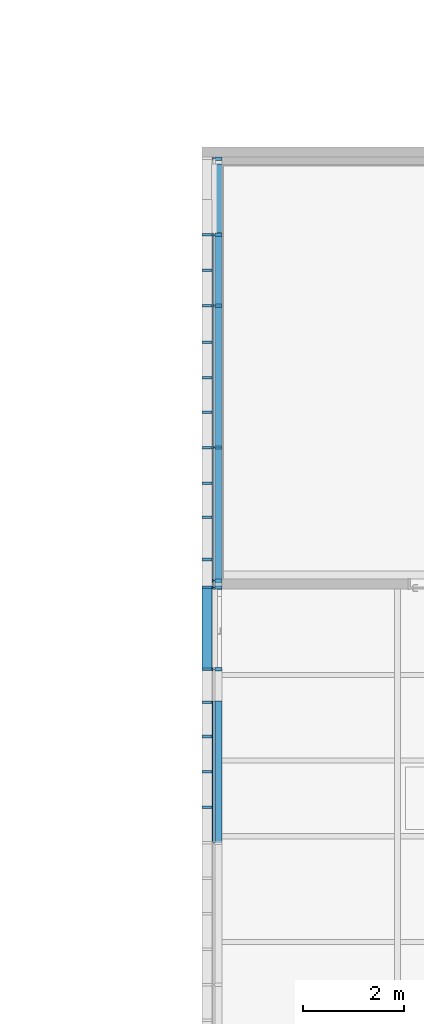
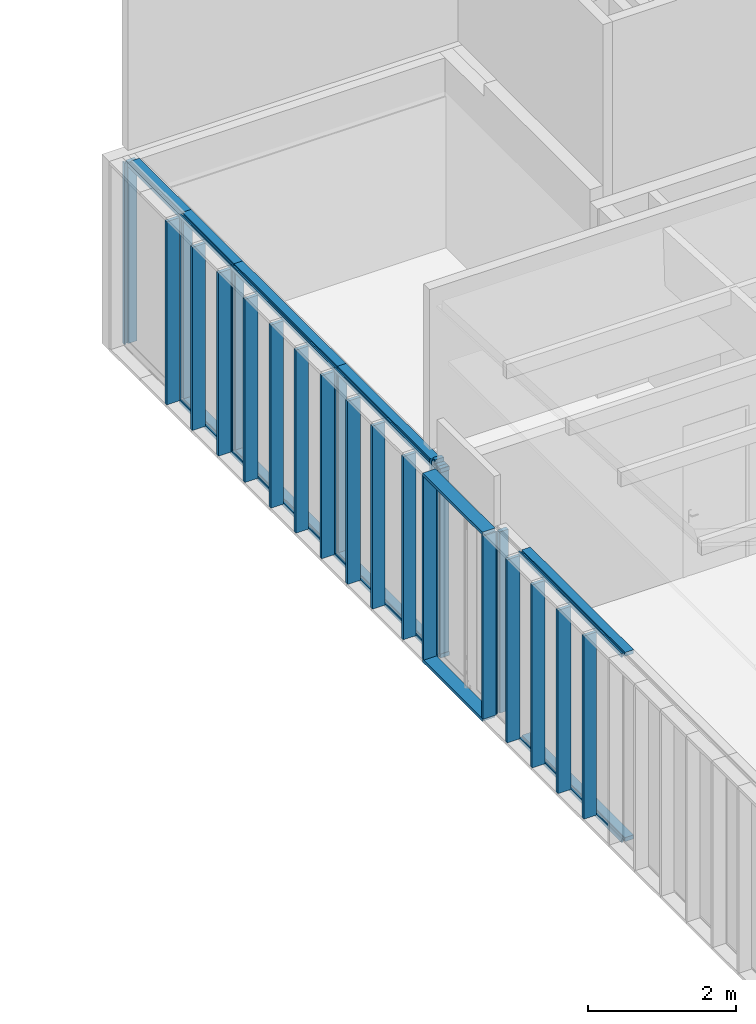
# One storey, part 6 of 240: 34 members, 4 elements without a shape of their own.
"""IFC2X3 building model written with IfcOpenShell, lengths in centimetres."""

from ifc_helpers import new_model, entity, si_unit, converted_unit, derived_unit, direction, frame, origin, origin_2d_with_axis, place, context, subcontext, project, spatial, polyline, rectangle, outline, extrude, source, transform, mapped, material, type_object, type_shapes, element, aggregate, save


model = new_model("IFC2X3")

# Units and contexts
model_context = context("Model", 3, precision=0.001, world=origin(), true_north=direction((6.12303176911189e-17, 1.0)))
body_context = subcontext(model_context, "Body", "Model", "MODEL_VIEW")
ifc_project = project(units=[si_unit("LENGTHUNIT", "METRE", prefix="CENTI"), si_unit("AREAUNIT", "SQUARE_METRE"), si_unit("VOLUMEUNIT", "CUBIC_METRE"), converted_unit("PLANEANGLEUNIT", "DEGREE", entity("IfcRatioMeasure", 0.0174532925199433), si_unit("PLANEANGLEUNIT", "RADIAN"), dimensions=[0, 0, 0, 0, 0, 0, 0]), si_unit("MASSUNIT", "GRAM", prefix="KILO"), derived_unit("MASSDENSITYUNIT", [(si_unit("MASSUNIT", "GRAM", prefix="KILO"), 1), (si_unit("LENGTHUNIT", "METRE"), -3)]), si_unit("TIMEUNIT", "SECOND"), si_unit("FREQUENCYUNIT", "HERTZ"), si_unit("THERMODYNAMICTEMPERATUREUNIT", "DEGREE_CELSIUS"), derived_unit("THERMALTRANSMITTANCEUNIT", [(si_unit("MASSUNIT", "GRAM", prefix="KILO"), 1), (si_unit("THERMODYNAMICTEMPERATUREUNIT", "KELVIN"), -1), (si_unit("TIMEUNIT", "SECOND"), -3)]), derived_unit("VOLUMETRICFLOWRATEUNIT", [(si_unit("LENGTHUNIT", "METRE"), 3), (si_unit("TIMEUNIT", "SECOND"), -1)]), si_unit("ELECTRICCURRENTUNIT", "AMPERE"), si_unit("ELECTRICVOLTAGEUNIT", "VOLT"), si_unit("POWERUNIT", "WATT"), si_unit("FORCEUNIT", "NEWTON", prefix="KILO"), si_unit("ILLUMINANCEUNIT", "LUX"), si_unit("LUMINOUSFLUXUNIT", "LUMEN"), si_unit("LUMINOUSINTENSITYUNIT", "CANDELA"), derived_unit("USERDEFINED", [(si_unit("MASSUNIT", "GRAM", prefix="KILO"), -1), (si_unit("LENGTHUNIT", "METRE"), -2), (si_unit("TIMEUNIT", "SECOND"), 3), (si_unit("LUMINOUSFLUXUNIT", "LUMEN"), 1)]), derived_unit("LINEARVELOCITYUNIT", [(si_unit("LENGTHUNIT", "METRE"), 1), (si_unit("TIMEUNIT", "SECOND"), -1)]), si_unit("PRESSUREUNIT", "PASCAL"), derived_unit("USERDEFINED", [(si_unit("LENGTHUNIT", "METRE"), -2), (si_unit("MASSUNIT", "GRAM", prefix="KILO"), 1), (si_unit("TIMEUNIT", "SECOND"), -2)])], contexts=[model_context])

# Site, building, storey
site_placement = place(None, frame((-2781.94577612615, 7442.24238424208, 0.0)))
site = spatial("IfcSite", under=ifc_project, at=site_placement, Name="Default", CompositionType="ELEMENT")
building_placement = place(site_placement, origin())
building = spatial("IfcBuilding", under=site, at=building_placement, CompositionType="ELEMENT")
storey_placement = place(building_placement, origin())
storey = spatial("IfcBuildingStorey", under=building, at=storey_placement, Name="N00 - COO", CompositionType="ELEMENT", Elevation=0.0)

# Curtain wall, members
curtain_wall_type_1 = type_object("IfcCurtainWallType", Name="Mur-rideau:07 - mur rideau trame 280 cm", PredefinedType="NOTDEFINED")
curtain_wall_1_placement = place(building_placement, origin())
curtain_wall_1 = element("IfcCurtainWall", 1, at=curtain_wall_1_placement, inside=storey, type_object=curtain_wall_type_1, Name="Mur-rideau:07 - mur rideau trame 280 cm", ObjectType="Mur-rideau:07 - mur rideau trame 280 cm")
ifc_material = material(Name="Aluminium")
member_type_1 = type_object("IfcMemberType", Name="150 x 25mm Détails", PredefinedType="MEMBER")
shared_shape_1 = source(origin(), body_context, "Body", "SweptSolid", [
    extrude(outline(polyline([(-13.3333333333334, -3.24999999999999), (0.166666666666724, -3.24999999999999), (0.166666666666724, -0.868749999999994), (3.66666666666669, -0.868749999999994), (3.66666666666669, -3.25), (5.6666666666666, -3.25), (5.6666666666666, 3.24999999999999), (3.66666666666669, 3.24999999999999), (3.66666666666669, 0.86874999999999), (0.166666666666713, 0.86874999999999), (0.166666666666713, 3.25000000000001), (-13.3333333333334, 3.25000000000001), (-13.3333333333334, -3.24999999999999)])), frame((-3.24999999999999, 1.96666666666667, -306.50860145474), z_axis=(0.0, 0.0, 1.0), x_axis=(0.0, -1.0, 0.0)), (0.0, 0.0, 1.0), 306.50860145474),
])
type_shapes(member_type_1, [shared_shape_1])
member_1_placement = place(building_placement, frame((-11860.6505746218, -4225.50027342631, 313.00860145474), z_axis=(0.0, 0.0, 1.0), x_axis=(0.0, -1.0, 0.0)))
member_1 = element("IfcMember", 2, at=member_1_placement, type_object=member_type_1, material=ifc_material, Name="Meneau rectangulaire:150 x 25mm Détails", ObjectType="Meneau rectangulaire:150 x 25mm Détails", context=body_context, shape_type="MappedRepresentation", body=[
    mapped(shared_shape_1, transform((0.0, 0.0, 0.0), scale=1.0)),
])
member_type_2 = type_object("IfcMemberType", Name="150 x 25mm Détails", PredefinedType="MEMBER")
shared_shape_2 = source(origin(), body_context, "Body", "SweptSolid", [
    extrude(outline(polyline([(-13.3333333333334, -3.25000000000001), (0.166666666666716, -3.25000000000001), (0.166666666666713, -0.86874999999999), (3.66666666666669, -0.86874999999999), (3.66666666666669, -3.24999999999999), (5.66666666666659, -3.24999999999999), (5.66666666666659, 3.25), (3.66666666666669, 3.25), (3.66666666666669, 0.868749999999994), (0.166666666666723, 0.868749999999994), (0.166666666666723, 3.25000000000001), (-13.3333333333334, 3.24999999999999), (-13.3333333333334, -3.25000000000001)])), frame((-3.24999999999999, 1.96666666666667, -319.50860145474), z_axis=(0.0, 0.0, 1.0), x_axis=(0.0, -1.0, 0.0)), (0.0, 0.0, 1.0), 319.50860145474),
])
type_shapes(member_type_2, [shared_shape_2])
member_2_placement = place(building_placement, frame((-11860.6505746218, -4205.50027342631, 0.0), z_axis=(0.0, 0.0, -1.0), x_axis=(0.0, 1.0, 0.0)))
member_2 = element("IfcMember", 3, at=member_2_placement, type_object=member_type_2, material=ifc_material, Name="Meneau rectangulaire:150 x 25mm Détails", ObjectType="Meneau rectangulaire:150 x 25mm Détails", context=body_context, shape_type="MappedRepresentation", body=[
    mapped(shared_shape_2, transform((0.0, 0.0, 0.0), scale=1.0)),
])
aggregate(curtain_wall_1, [member_1, member_2])

curtain_wall_2_placement = place(building_placement, origin())
curtain_wall_2 = element("IfcCurtainWall", 4, at=curtain_wall_2_placement, inside=storey, type_object=curtain_wall_type_1, Name="Mur-rideau:07 - mur rideau trame 280 cm", ObjectType="Mur-rideau:07 - mur rideau trame 280 cm")
member_type_3 = type_object("IfcMemberType", Name="150 x 25mm Détails", PredefinedType="MEMBER")
shared_shape_3 = source(origin(), body_context, "Body", "SweptSolid", [
    extrude(outline(polyline([(-13.3333333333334, -3.25000000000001), (0.166666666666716, -3.25000000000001), (0.166666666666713, -0.86874999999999), (3.66666666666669, -0.86874999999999), (3.66666666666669, -3.24999999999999), (5.66666666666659, -3.24999999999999), (5.66666666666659, 3.25), (3.66666666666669, 3.25), (3.66666666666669, 0.868749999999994), (0.166666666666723, 0.868749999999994), (0.166666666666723, 3.25000000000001), (-13.3333333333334, 3.24999999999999), (-13.3333333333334, -3.25000000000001)])), frame((-3.24999999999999, 1.96666666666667, -140.0), z_axis=(0.0, 0.0, 1.0), x_axis=(0.0, -1.0, 0.0)), (0.0, 0.0, 1.0), 140.0),
])
type_shapes(member_type_3, [shared_shape_3])
member_3_placement = place(building_placement, frame((-11860.1844031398, -3526.00027342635, 313.0), z_axis=(0.0, 1.0, 0.0), x_axis=(0.0, 0.0, 1.0)))
member_3 = element("IfcMember", 5, at=member_3_placement, type_object=member_type_3, material=ifc_material, Name="Meneau rectangulaire:150 x 25mm Détails", ObjectType="Meneau rectangulaire:150 x 25mm Détails", context=body_context, shape_type="MappedRepresentation", body=[
    mapped(shared_shape_3, transform((0.0, 0.0, 0.0), scale=1.0)),
])
member_type_4 = type_object("IfcMemberType", Name="150 x 25mm Détails", PredefinedType="MEMBER")
shared_shape_4 = source(origin(), body_context, "Body", "SweptSolid", [
    extrude(outline(polyline([(-13.3333333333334, -3.24999999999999), (0.166666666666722, -3.24999999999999), (0.166666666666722, -0.868749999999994), (3.66666666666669, -0.868749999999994), (3.66666666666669, -3.25), (5.66666666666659, -3.25), (5.66666666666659, 3.24999999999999), (3.66666666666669, 3.24999999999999), (3.66666666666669, 0.86874999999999), (0.166666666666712, 0.86874999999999), (0.166666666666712, 3.25000000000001), (-13.3333333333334, 3.25000000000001), (-13.3333333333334, -3.24999999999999)])), frame((-3.24999999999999, 1.96666666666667, -140.0), z_axis=(0.0, 0.0, 1.0), x_axis=(0.0, -1.0, 0.0)), (0.0, 0.0, 1.0), 140.0),
])
type_shapes(member_type_4, [shared_shape_4])
member_4_placement = place(building_placement, frame((-11860.1844031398, -3666.00027342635, 0.0), z_axis=(0.0, -1.0, 0.0), x_axis=(0.0, 0.0, -1.0)))
member_4 = element("IfcMember", 6, at=member_4_placement, type_object=member_type_4, material=ifc_material, Name="Meneau rectangulaire:150 x 25mm Détails", ObjectType="Meneau rectangulaire:150 x 25mm Détails", context=body_context, shape_type="MappedRepresentation", body=[
    mapped(shared_shape_4, transform((0.0, 0.0, 0.0), scale=1.0)),
])
member_type_5 = type_object("IfcMemberType", Name="150 x 25mm Détails", PredefinedType="MEMBER")
shared_shape_5 = source(origin(), body_context, "Body", "SweptSolid", [
    extrude(outline(polyline([(-13.3333333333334, -3.25000000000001), (0.166666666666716, -3.25000000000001), (0.166666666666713, -0.86874999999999), (3.66666666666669, -0.86874999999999), (3.66666666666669, -3.24999999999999), (5.66666666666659, -3.24999999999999), (5.66666666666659, 3.25), (3.66666666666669, 3.25), (3.66666666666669, 0.868749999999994), (0.166666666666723, 0.868749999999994), (0.166666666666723, 3.25000000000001), (-13.3333333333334, 3.24999999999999), (-13.3333333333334, -3.25000000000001)])), frame((-3.24999999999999, 1.96666666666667, -140.0), z_axis=(0.0, 0.0, 1.0), x_axis=(0.0, -1.0, 0.0)), (0.0, 0.0, 1.0), 140.0),
])
type_shapes(member_type_5, [shared_shape_5])
member_5_placement = place(building_placement, frame((-11860.1844031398, -3386.00027342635, 313.0), z_axis=(0.0, 1.0, 0.0), x_axis=(0.0, 0.0, 1.0)))
member_5 = element("IfcMember", 7, at=member_5_placement, type_object=member_type_5, material=ifc_material, Name="Meneau rectangulaire:150 x 25mm Détails", ObjectType="Meneau rectangulaire:150 x 25mm Détails", context=body_context, shape_type="MappedRepresentation", body=[
    mapped(shared_shape_5, transform((0.0, 0.0, 0.0), scale=1.0)),
])
member_type_6 = type_object("IfcMemberType", Name="150 x 25mm Détails", PredefinedType="MEMBER")
shared_shape_6 = source(origin(), body_context, "Body", "SweptSolid", [
    extrude(outline(polyline([(-13.3333333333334, -3.25000000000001), (0.166666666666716, -3.25000000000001), (0.166666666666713, -0.86874999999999), (3.66666666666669, -0.86874999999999), (3.66666666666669, -3.24999999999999), (5.66666666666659, -3.24999999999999), (5.66666666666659, 3.25), (3.66666666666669, 3.25), (3.66666666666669, 0.868749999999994), (0.166666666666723, 0.868749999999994), (0.166666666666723, 3.25000000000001), (-13.3333333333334, 3.24999999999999), (-13.3333333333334, -3.25000000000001)])), frame((0.0, 1.96666666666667, -300.0), z_axis=(0.0, 0.0, 1.0), x_axis=(0.0, -1.0, 0.0)), (0.0, 0.0, 1.0), 300.000000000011),
])
type_shapes(member_type_6, [shared_shape_6])
member_6_placement = place(building_placement, frame((-11860.1844031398, -3946.00027342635, 6.49999999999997), z_axis=(0.0, 0.0, -1.0), x_axis=(0.0, 1.0, 0.0)))
member_6 = element("IfcMember", 8, at=member_6_placement, type_object=member_type_6, material=ifc_material, Name="Meneau rectangulaire:150 x 25mm Détails", ObjectType="Meneau rectangulaire:150 x 25mm Détails", context=body_context, shape_type="MappedRepresentation", body=[
    mapped(shared_shape_6, transform((0.0, 0.0, 0.0), scale=1.0)),
])
member_7_placement = place(building_placement, frame((-11860.1844031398, -3666.00027342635, 6.49999999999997), z_axis=(0.0, 0.0, -1.0), x_axis=(0.0, 1.0, 0.0)))
member_7 = element("IfcMember", 9, at=member_7_placement, type_object=member_type_6, material=ifc_material, Name="Meneau rectangulaire:150 x 25mm Détails", ObjectType="Meneau rectangulaire:150 x 25mm Détails", context=body_context, shape_type="MappedRepresentation", body=[
    mapped(shared_shape_6, transform((0.0, 0.0, 0.0), scale=1.0)),
])
member_8_placement = place(building_placement, frame((-11860.1844031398, -3526.00027342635, 6.49999999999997), z_axis=(0.0, 0.0, -1.0), x_axis=(0.0, 1.0, 0.0)))
member_8 = element("IfcMember", 10, at=member_8_placement, type_object=member_type_6, material=ifc_material, Name="Meneau rectangulaire:150 x 25mm Détails", ObjectType="Meneau rectangulaire:150 x 25mm Détails", context=body_context, shape_type="MappedRepresentation", body=[
    mapped(shared_shape_6, transform((0.0, 0.0, 0.0), scale=1.0)),
])

curtain_wall_type_2 = type_object("IfcCurtainWallType", Name="Mur-rideau:Epines - 200x50mm", PredefinedType="NOTDEFINED")
curtain_wall_3_placement = place(building_placement, origin())
curtain_wall_3 = element("IfcCurtainWall", 11, at=curtain_wall_3_placement, inside=storey, type_object=curtain_wall_type_2, Name="Mur-rideau:Epines - 200x50mm", ObjectType="Mur-rideau:Epines - 200x50mm")
member_type_7 = type_object("IfcMemberType", Name="200x50 mm", PredefinedType="MEMBER")
shared_shape_7 = source(origin(), body_context, "Body", "SweptSolid", [
    extrude(rectangle(XDim=20.0, YDim=5.0, at=origin_2d_with_axis()), frame((0.0, 0.0, -303.0), z_axis=(0.0, 0.0, 1.0), x_axis=(0.0, -1.0, 0.0)), (0.0, 0.0, 1.0), 303.000000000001),
])
type_shapes(member_type_7, [shared_shape_7])
member_9_placement = place(building_placement, frame((-11874.3505746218, -4656.50173438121, 5.0), z_axis=(0.0, 0.0, -1.0), x_axis=(0.0, 1.0, 0.0)))
member_9 = element("IfcMember", 12, at=member_9_placement, type_object=member_type_7, material=ifc_material, Name="Meneau rectangulaire:200x50 mm", ObjectType="Meneau rectangulaire:200x50 mm", context=body_context, shape_type="MappedRepresentation", body=[
    mapped(shared_shape_7, transform((0.0, 0.0, 0.0), scale=1.0)),
])
member_10_placement = place(building_placement, frame((-11874.3505746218, -4586.50173438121, 5.0), z_axis=(0.0, 0.0, -1.0), x_axis=(0.0, 1.0, 0.0)))
member_10 = element("IfcMember", 13, at=member_10_placement, type_object=member_type_7, material=ifc_material, Name="Meneau rectangulaire:200x50 mm", ObjectType="Meneau rectangulaire:200x50 mm", context=body_context, shape_type="MappedRepresentation", body=[
    mapped(shared_shape_7, transform((0.0, 0.0, 0.0), scale=1.0)),
])
member_11_placement = place(building_placement, frame((-11874.3505746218, -4516.50173438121, 5.0), z_axis=(0.0, 0.0, -1.0), x_axis=(0.0, 1.0, 0.0)))
member_11 = element("IfcMember", 14, at=member_11_placement, type_object=member_type_7, material=ifc_material, Name="Meneau rectangulaire:200x50 mm", ObjectType="Meneau rectangulaire:200x50 mm", context=body_context, shape_type="MappedRepresentation", body=[
    mapped(shared_shape_7, transform((0.0, 0.0, 0.0), scale=1.0)),
])
member_12_placement = place(building_placement, frame((-11874.3505746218, -4448.50173438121, 5.0), z_axis=(0.0, 0.0, -1.0), x_axis=(0.0, 1.0, 0.0)))
member_12 = element("IfcMember", 15, at=member_12_placement, type_object=member_type_7, material=ifc_material, Name="Meneau rectangulaire:200x50 mm", ObjectType="Meneau rectangulaire:200x50 mm", context=body_context, shape_type="MappedRepresentation", body=[
    mapped(shared_shape_7, transform((0.0, 0.0, 0.0), scale=1.0)),
])
member_13_placement = place(building_placement, frame((-11874.3505746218, -4383.75173441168, 5.0), z_axis=(0.0, 0.0, -1.0), x_axis=(0.0, 1.0, 0.0)))
member_13 = element("IfcMember", 16, at=member_13_placement, type_object=member_type_7, material=ifc_material, Name="Meneau rectangulaire:200x50 mm", ObjectType="Meneau rectangulaire:200x50 mm", context=body_context, shape_type="MappedRepresentation", body=[
    mapped(shared_shape_7, transform((0.0, 0.0, 0.0), scale=1.0)),
])
member_14_placement = place(building_placement, frame((-11874.3505746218, -4167.00173441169, 5.0), z_axis=(0.0, 0.0, -1.0), x_axis=(0.0, 1.0, 0.0)))
member_14 = element("IfcMember", 17, at=member_14_placement, type_object=member_type_7, material=ifc_material, Name="Meneau rectangulaire:200x50 mm", ObjectType="Meneau rectangulaire:200x50 mm", context=body_context, shape_type="MappedRepresentation", body=[
    mapped(shared_shape_7, transform((0.0, 0.0, 0.0), scale=1.0)),
])
member_15_placement = place(building_placement, frame((-11874.3505746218, -4083.50027342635, 5.0), z_axis=(0.0, 0.0, -1.0), x_axis=(0.0, 1.0, 0.0)))
member_15 = element("IfcMember", 18, at=member_15_placement, type_object=member_type_7, material=ifc_material, Name="Meneau rectangulaire:200x50 mm", ObjectType="Meneau rectangulaire:200x50 mm", context=body_context, shape_type="MappedRepresentation", body=[
    mapped(shared_shape_7, transform((0.0, 0.0, 0.0), scale=1.0)),
])
member_16_placement = place(building_placement, frame((-11874.3505746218, -3876.00027342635, 5.0), z_axis=(0.0, 0.0, -1.0), x_axis=(0.0, 1.0, 0.0)))
member_16 = element("IfcMember", 19, at=member_16_placement, type_object=member_type_7, material=ifc_material, Name="Meneau rectangulaire:200x50 mm", ObjectType="Meneau rectangulaire:200x50 mm", context=body_context, shape_type="MappedRepresentation", body=[
    mapped(shared_shape_7, transform((0.0, 0.0, 0.0), scale=1.0)),
])
member_17_placement = place(building_placement, frame((-11874.3505746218, -3946.00027342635, 5.0), z_axis=(0.0, 0.0, -1.0), x_axis=(0.0, 1.0, 0.0)))
member_17 = element("IfcMember", 20, at=member_17_placement, type_object=member_type_7, material=ifc_material, Name="Meneau rectangulaire:200x50 mm", ObjectType="Meneau rectangulaire:200x50 mm", context=body_context, shape_type="MappedRepresentation", body=[
    mapped(shared_shape_7, transform((0.0, 0.0, 0.0), scale=1.0)),
])
member_18_placement = place(building_placement, frame((-11874.3505746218, -4016.00027342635, 5.0), z_axis=(0.0, 0.0, -1.0), x_axis=(0.0, 1.0, 0.0)))
member_18 = element("IfcMember", 21, at=member_18_placement, type_object=member_type_7, material=ifc_material, Name="Meneau rectangulaire:200x50 mm", ObjectType="Meneau rectangulaire:200x50 mm", context=body_context, shape_type="MappedRepresentation", body=[
    mapped(shared_shape_7, transform((0.0, 0.0, 0.0), scale=1.0)),
])
member_19_placement = place(building_placement, frame((-11874.3505746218, -3808.00027342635, 5.0), z_axis=(0.0, 0.0, -1.0), x_axis=(0.0, 1.0, 0.0)))
member_19 = element("IfcMember", 22, at=member_19_placement, type_object=member_type_7, material=ifc_material, Name="Meneau rectangulaire:200x50 mm", ObjectType="Meneau rectangulaire:200x50 mm", context=body_context, shape_type="MappedRepresentation", body=[
    mapped(shared_shape_7, transform((0.0, 0.0, 0.0), scale=1.0)),
])
member_20_placement = place(building_placement, frame((-11874.3505746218, -3738.00027342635, 5.0), z_axis=(0.0, 0.0, -1.0), x_axis=(0.0, 1.0, 0.0)))
member_20 = element("IfcMember", 23, at=member_20_placement, type_object=member_type_7, material=ifc_material, Name="Meneau rectangulaire:200x50 mm", ObjectType="Meneau rectangulaire:200x50 mm", context=body_context, shape_type="MappedRepresentation", body=[
    mapped(shared_shape_7, transform((0.0, 0.0, 0.0), scale=1.0)),
])
member_21_placement = place(building_placement, frame((-11874.3505746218, -3666.00027342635, 5.0), z_axis=(0.0, 0.0, -1.0), x_axis=(0.0, 1.0, 0.0)))
member_21 = element("IfcMember", 24, at=member_21_placement, type_object=member_type_7, material=ifc_material, Name="Meneau rectangulaire:200x50 mm", ObjectType="Meneau rectangulaire:200x50 mm", context=body_context, shape_type="MappedRepresentation", body=[
    mapped(shared_shape_7, transform((0.0, 0.0, 0.0), scale=1.0)),
])
member_22_placement = place(building_placement, frame((-11874.3505746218, -3596.00027342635, 5.0), z_axis=(0.0, 0.0, -1.0), x_axis=(0.0, 1.0, 0.0)))
member_22 = element("IfcMember", 25, at=member_22_placement, type_object=member_type_7, material=ifc_material, Name="Meneau rectangulaire:200x50 mm", ObjectType="Meneau rectangulaire:200x50 mm", context=body_context, shape_type="MappedRepresentation", body=[
    mapped(shared_shape_7, transform((0.0, 0.0, 0.0), scale=1.0)),
])
member_23_placement = place(building_placement, frame((-11874.3505746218, -3526.00027342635, 5.0), z_axis=(0.0, 0.0, -1.0), x_axis=(0.0, 1.0, 0.0)))
member_23 = element("IfcMember", 26, at=member_23_placement, type_object=member_type_7, material=ifc_material, Name="Meneau rectangulaire:200x50 mm", ObjectType="Meneau rectangulaire:200x50 mm", context=body_context, shape_type="MappedRepresentation", body=[
    mapped(shared_shape_7, transform((0.0, 0.0, 0.0), scale=1.0)),
])
member_24_placement = place(building_placement, frame((-11874.3505746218, -4222.25027342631, 5.0), z_axis=(0.0, 0.0, -1.0), x_axis=(0.0, 1.0, 0.0)))
member_24 = element("IfcMember", 27, at=member_24_placement, type_object=member_type_7, material=ifc_material, Name="Meneau rectangulaire:200x50 mm", ObjectType="Meneau rectangulaire:200x50 mm", context=body_context, shape_type="MappedRepresentation", body=[
    mapped(shared_shape_7, transform((0.0, 0.0, 0.0), scale=1.0)),
])

# Member
member_type_8 = type_object("IfcMemberType", Name="150 x 25mm Détails", PredefinedType="MEMBER")
shared_shape_8 = source(origin(), body_context, "Body", "SweptSolid", [
    extrude(outline(polyline([(-13.3333333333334, -3.25000000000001), (0.166666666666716, -3.25000000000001), (0.166666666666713, -0.86874999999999), (3.66666666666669, -0.86874999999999), (3.66666666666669, -3.24999999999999), (5.66666666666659, -3.24999999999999), (5.66666666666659, 3.25), (3.66666666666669, 3.25), (3.66666666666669, 0.868749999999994), (0.166666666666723, 0.868749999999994), (0.166666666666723, 3.25000000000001), (-13.3333333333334, 3.24999999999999), (-13.3333333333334, -3.25000000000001)])), frame((-3.24999999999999, 1.96666666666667, -300.0), z_axis=(0.0, 0.0, 1.0), x_axis=(0.0, -1.0, 0.0)), (0.0, 0.0, 1.0), 300.000000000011),
])
type_shapes(member_type_8, [shared_shape_8])
member_25_placement = place(building_placement, frame((-11860.1844031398, -3372.52180651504, 6.49999999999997), z_axis=(0.0, 0.0, -1.0), x_axis=(0.0, 1.0, 0.0)))
member_25 = element("IfcMember", 28, at=member_25_placement, type_object=member_type_8, material=ifc_material, Name="Meneau rectangulaire:150 x 25mm Détails", ObjectType="Meneau rectangulaire:150 x 25mm Détails", context=body_context, shape_type="MappedRepresentation", body=[
    mapped(shared_shape_8, transform((0.0, 0.0, 0.0), scale=1.0)),
])

# Curtain wall, member
curtain_wall_4_placement = place(building_placement, origin())
curtain_wall_4 = element("IfcCurtainWall", 29, at=curtain_wall_4_placement, inside=storey, type_object=curtain_wall_type_1, Name="Mur-rideau:07 - mur rideau trame 280 cm", ObjectType="Mur-rideau:07 - mur rideau trame 280 cm")
member_26_placement = place(building_placement, frame((-11860.6505746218, -4380.50173441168, 6.49999999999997), z_axis=(0.0, 0.0, -1.0), x_axis=(0.0, 1.0, 0.0)))
member_26 = element("IfcMember", 30, at=member_26_placement, type_object=member_type_8, material=ifc_material, Name="Meneau rectangulaire:150 x 25mm Détails", ObjectType="Meneau rectangulaire:150 x 25mm Détails", context=body_context, shape_type="MappedRepresentation", body=[
    mapped(shared_shape_8, transform((0.0, 0.0, 0.0), scale=1.0)),
])

# Member
member_type_9 = type_object("IfcMemberType", Name="150 x 25mm Détails", PredefinedType="MEMBER")
shared_shape_9 = source(origin(), body_context, "Body", "SweptSolid", [
    extrude(outline(polyline([(-13.3333333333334, -3.24999999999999), (0.166666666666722, -3.24999999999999), (0.166666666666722, -0.868749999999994), (3.66666666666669, -0.868749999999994), (3.66666666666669, -3.25), (5.66666666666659, -3.25), (5.66666666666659, 3.24999999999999), (3.66666666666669, 3.24999999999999), (3.66666666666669, 0.86874999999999), (0.166666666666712, 0.86874999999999), (0.166666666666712, 3.25000000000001), (-13.3333333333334, 3.25000000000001), (-13.3333333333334, -3.24999999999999)])), frame((-3.24999999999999, 1.96666666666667, -280.0), z_axis=(0.0, 0.0, 1.0), x_axis=(0.0, -1.0, 0.0)), (0.0, 0.0, 1.0), 280.0),
])
type_shapes(member_type_9, [shared_shape_9])
member_27_placement = place(building_placement, frame((-11860.1844031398, -3946.00027342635, 0.0), z_axis=(0.0, -1.0, 0.0), x_axis=(0.0, 0.0, -1.0)))
member_27 = element("IfcMember", 31, at=member_27_placement, type_object=member_type_9, material=ifc_material, Name="Meneau rectangulaire:150 x 25mm Détails", ObjectType="Meneau rectangulaire:150 x 25mm Détails", context=body_context, shape_type="MappedRepresentation", body=[
    mapped(shared_shape_9, transform((0.0, 0.0, 0.0), scale=1.0)),
])

member_type_10 = type_object("IfcMemberType", Name="150 x 25mm Détails", PredefinedType="MEMBER")
shared_shape_10 = source(origin(), body_context, "Body", "SweptSolid", [
    extrude(outline(polyline([(-13.3333333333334, -3.24999999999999), (0.166666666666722, -3.24999999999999), (0.166666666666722, -0.868749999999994), (3.66666666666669, -0.868749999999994), (3.66666666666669, -3.25), (5.66666666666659, -3.25), (5.66666666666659, 3.24999999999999), (3.66666666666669, 3.24999999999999), (3.66666666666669, 0.86874999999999), (0.166666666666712, 0.86874999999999), (0.166666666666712, 3.25000000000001), (-13.3333333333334, 3.25000000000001), (-13.3333333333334, -3.24999999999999)])), frame((-3.24999999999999, 1.96666666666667, -280.0), z_axis=(0.0, 0.0, 1.0), x_axis=(0.0, -1.0, 0.0)), (0.0, 0.0, 1.0), 280.000000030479),
])
type_shapes(member_type_10, [shared_shape_10])
member_28_placement = place(building_placement, frame((-11860.1844031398, -4226.00027345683, 0.0), z_axis=(0.0, -1.0, 0.0), x_axis=(0.0, 0.0, -1.0)))
member_28 = element("IfcMember", 32, at=member_28_placement, type_object=member_type_10, material=ifc_material, Name="Meneau rectangulaire:150 x 25mm Détails", ObjectType="Meneau rectangulaire:150 x 25mm Détails", context=body_context, shape_type="MappedRepresentation", body=[
    mapped(shared_shape_10, transform((0.0, 0.0, 0.0), scale=1.0)),
])

member_type_11 = type_object("IfcMemberType", Name="150 x 25mm Détails", PredefinedType="MEMBER")
shared_shape_11 = source(origin(), body_context, "Body", "SweptSolid", [
    extrude(outline(polyline([(-13.3333333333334, -3.25000000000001), (0.166666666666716, -3.25000000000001), (0.166666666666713, -0.86874999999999), (3.66666666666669, -0.86874999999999), (3.66666666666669, -3.24999999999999), (5.66666666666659, -3.24999999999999), (5.66666666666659, 3.25), (3.66666666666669, 3.25), (3.66666666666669, 0.868749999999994), (0.166666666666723, 0.868749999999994), (0.166666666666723, 3.25000000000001), (-13.3333333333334, 3.24999999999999), (-13.3333333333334, -3.25000000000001)])), frame((-3.24999999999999, 1.96666666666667, -280.0), z_axis=(0.0, 0.0, 1.0), x_axis=(0.0, -1.0, 0.0)), (0.0, 0.0, 1.0), 280.000000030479),
])
type_shapes(member_type_11, [shared_shape_11])
member_29_placement = place(building_placement, frame((-11860.1844031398, -3946.00027342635, 313.0), z_axis=(0.0, 1.0, 0.0), x_axis=(0.0, 0.0, 1.0)))
member_29 = element("IfcMember", 33, at=member_29_placement, type_object=member_type_11, material=ifc_material, Name="Meneau rectangulaire:150 x 25mm Détails", ObjectType="Meneau rectangulaire:150 x 25mm Détails", context=body_context, shape_type="MappedRepresentation", body=[
    mapped(shared_shape_11, transform((0.0, 0.0, 0.0), scale=1.0)),
])

member_type_12 = type_object("IfcMemberType", Name="150 x 25mm Détails", PredefinedType="MEMBER")
shared_shape_12 = source(origin(), body_context, "Body", "SweptSolid", [
    extrude(outline(polyline([(-13.3333333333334, -3.25000000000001), (0.166666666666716, -3.25000000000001), (0.166666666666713, -0.86874999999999), (3.66666666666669, -0.86874999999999), (3.66666666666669, -3.24999999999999), (5.66666666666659, -3.24999999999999), (5.66666666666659, 3.25), (3.66666666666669, 3.25), (3.66666666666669, 0.868749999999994), (0.166666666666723, 0.868749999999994), (0.166666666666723, 3.25000000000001), (-13.3333333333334, 3.24999999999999), (-13.3333333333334, -3.25000000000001)])), frame((-3.24999999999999, 1.96666666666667, -280.0), z_axis=(0.0, 0.0, 1.0), x_axis=(0.0, -1.0, 0.0)), (0.0, 0.0, 1.0), 280.0),
])
type_shapes(member_type_12, [shared_shape_12])
member_30_placement = place(building_placement, frame((-11860.1844031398, -3666.00027342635, 313.0), z_axis=(0.0, 1.0, 0.0), x_axis=(0.0, 0.0, 1.0)))
member_30 = element("IfcMember", 34, at=member_30_placement, type_object=member_type_12, material=ifc_material, Name="Meneau rectangulaire:150 x 25mm Détails", ObjectType="Meneau rectangulaire:150 x 25mm Détails", context=body_context, shape_type="MappedRepresentation", body=[
    mapped(shared_shape_12, transform((0.0, 0.0, 0.0), scale=1.0)),
])

aggregate(curtain_wall_2, [member_25, member_27, member_4, member_6, member_7, member_28, member_29, member_30, member_5, member_3, member_8])

member_type_13 = type_object("IfcMemberType", Name="150 x 25mm Détails", PredefinedType="MEMBER")
shared_shape_13 = source(origin(), body_context, "Body", "SweptSolid", [
    extrude(outline(polyline([(-13.3333333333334, -3.25000000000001), (0.166666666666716, -3.25000000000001), (0.166666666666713, -0.86874999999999), (3.66666666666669, -0.86874999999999), (3.66666666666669, -3.24999999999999), (5.66666666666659, -3.24999999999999), (5.66666666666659, 3.25), (3.66666666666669, 3.25), (3.66666666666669, 0.868749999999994), (0.166666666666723, 0.868749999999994), (0.166666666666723, 3.25000000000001), (-13.3333333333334, 3.24999999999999), (-13.3333333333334, -3.25000000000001)])), frame((-3.24999999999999, 1.96666666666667, -280.0), z_axis=(0.0, 0.0, 1.0), x_axis=(0.0, -1.0, 0.0)), (0.0, 0.0, 1.0), 280.000000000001),
])
type_shapes(member_type_13, [shared_shape_13])
member_31_placement = place(building_placement, frame((-11860.6505746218, -4446.5017343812, 313.0), z_axis=(0.0, 1.0, 0.0), x_axis=(0.0, 0.0, 1.0)))
member_31 = element("IfcMember", 35, at=member_31_placement, type_object=member_type_13, material=ifc_material, Name="Meneau rectangulaire:150 x 25mm Détails", ObjectType="Meneau rectangulaire:150 x 25mm Détails", context=body_context, shape_type="MappedRepresentation", body=[
    mapped(shared_shape_13, transform((0.0, 0.0, 0.0), scale=1.0)),
])

member_type_14 = type_object("IfcMemberType", Name="150 x 25mm Détails", PredefinedType="MEMBER")
shared_shape_14 = source(origin(), body_context, "Body", "SweptSolid", [
    extrude(outline(polyline([(-13.3333333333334, -3.24999999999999), (0.166666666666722, -3.24999999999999), (0.166666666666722, -0.868749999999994), (3.66666666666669, -0.868749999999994), (3.66666666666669, -3.25), (5.66666666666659, -3.25), (5.66666666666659, 3.24999999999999), (3.66666666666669, 3.24999999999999), (3.66666666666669, 0.86874999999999), (0.166666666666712, 0.86874999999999), (0.166666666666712, 3.25000000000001), (-13.3333333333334, 3.25000000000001), (-13.3333333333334, -3.24999999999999)])), frame((-3.24999999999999, 1.96666666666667, -280.0), z_axis=(0.0, 0.0, 1.0), x_axis=(0.0, -1.0, 0.0)), (0.0, 0.0, 1.0), 280.0),
])
type_shapes(member_type_14, [shared_shape_14])
member_32_placement = place(building_placement, frame((-11860.6505746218, -4726.5017343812, 0.0), z_axis=(0.0, -1.0, 0.0), x_axis=(0.0, 0.0, -1.0)))
member_32 = element("IfcMember", 36, at=member_32_placement, type_object=member_type_14, material=ifc_material, Name="Meneau rectangulaire:150 x 25mm Détails", ObjectType="Meneau rectangulaire:150 x 25mm Détails", context=body_context, shape_type="MappedRepresentation", body=[
    mapped(shared_shape_14, transform((0.0, 0.0, 0.0), scale=1.0)),
])

aggregate(curtain_wall_4, [member_31, member_32, member_26])

member_type_15 = type_object("IfcMemberType", Name="200x50 mm", PredefinedType="MEMBER")
shared_shape_15 = source(origin(), body_context, "Body", "SweptSolid", [
    extrude(rectangle(XDim=20.0, YDim=5.0, at=origin_2d_with_axis()), frame((-2.5, 0.0, -161.501460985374), z_axis=(0.0, 0.0, 1.0), x_axis=(0.0, -1.0, 0.0)), (0.0, 0.0, 1.0), 161.501460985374),
])
type_shapes(member_type_15, [shared_shape_15])
member_33_placement = place(building_placement, frame((-11874.3505746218, -4383.75173441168, 0.0), z_axis=(0.0, -1.0, 0.0), x_axis=(0.0, 0.0, -1.0)))
member_33 = element("IfcMember", 37, at=member_33_placement, type_object=member_type_15, material=ifc_material, Name="Meneau rectangulaire:200x50 mm", ObjectType="Meneau rectangulaire:200x50 mm", context=body_context, shape_type="MappedRepresentation", body=[
    mapped(shared_shape_15, transform((0.0, 0.0, 0.0), scale=1.0)),
])

member_type_16 = type_object("IfcMemberType", Name="200x50 mm", PredefinedType="MEMBER")
shared_shape_16 = source(origin(), body_context, "Body", "SweptSolid", [
    extrude(rectangle(XDim=20.0, YDim=5.0, at=origin_2d_with_axis()), frame((-2.5, 0.0, -161.501460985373), z_axis=(0.0, 0.0, 1.0), x_axis=(0.0, -1.0, 0.0)), (0.0, 0.0, 1.0), 161.501460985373),
])
type_shapes(member_type_16, [shared_shape_16])
member_34_placement = place(building_placement, frame((-11874.3505746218, -4222.25027342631, 313.0), z_axis=(0.0, 1.0, 0.0), x_axis=(0.0, 0.0, 1.0)))
member_34 = element("IfcMember", 38, at=member_34_placement, type_object=member_type_16, material=ifc_material, Name="Meneau rectangulaire:200x50 mm", ObjectType="Meneau rectangulaire:200x50 mm", context=body_context, shape_type="MappedRepresentation", body=[
    mapped(shared_shape_16, transform((0.0, 0.0, 0.0), scale=1.0)),
])

aggregate(curtain_wall_3, [member_9, member_10, member_11, member_12, member_33, member_13, member_14, member_15, member_16, member_17, member_18, member_19, member_20, member_21, member_22, member_23, member_34, member_24])

save(model, "model.ifc")
